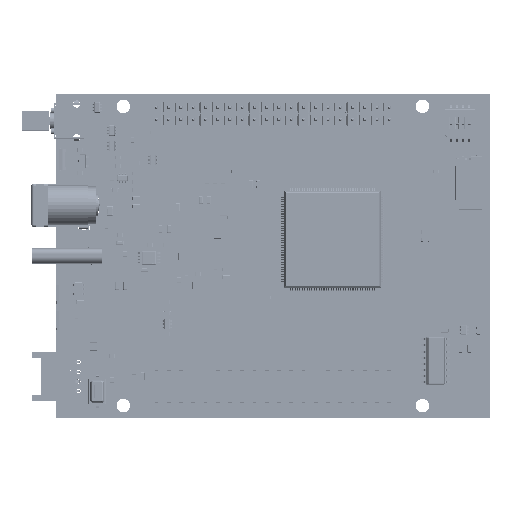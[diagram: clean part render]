
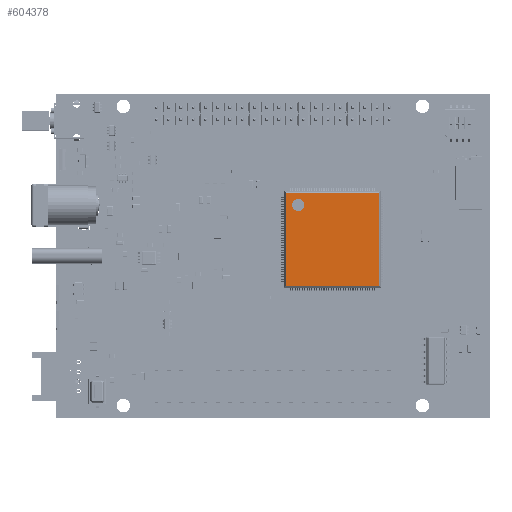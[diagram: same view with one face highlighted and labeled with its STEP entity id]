
A CAD part, top view. The second image highlights one B-rep face of the part: STEP entity #604378.
In plain terms, the highlighted planar face has unit normal (0, 0, 1).
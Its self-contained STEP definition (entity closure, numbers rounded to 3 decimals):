
#604284 = VERTEX_POINT('',#604285);
#604285 = CARTESIAN_POINT('',(47.704,27.304,1.6));
#604292 = EDGE_CURVE('',#604284,#604293,#604295,.T.);
#604293 = VERTEX_POINT('',#604294);
#604294 = CARTESIAN_POINT('',(47.704,46.596,1.6));
#604295 = LINE('',#604296,#604297);
#604296 = CARTESIAN_POINT('',(47.704,27.228,1.6));
#604297 = VECTOR('',#604298,1.);
#604298 = DIRECTION('',(0.,1.,0.));
#604359 = VERTEX_POINT('',#604360);
#604360 = CARTESIAN_POINT('',(66.996,27.304,1.6));
#604367 = EDGE_CURVE('',#604284,#604359,#604368,.T.);
#604368 = LINE('',#604369,#604370);
#604369 = CARTESIAN_POINT('',(47.628,27.304,1.6));
#604370 = VECTOR('',#604371,1.);
#604371 = DIRECTION('',(1.,0.,0.));
#604378 = ADVANCED_FACE('',(#604379,#604397),#604408,.T.);
#604379 = FACE_BOUND('',#604380,.T.);
#604380 = EDGE_LOOP('',(#604381,#604382,#604383,#604391));
#604381 = ORIENTED_EDGE('',*,*,#604292,.F.);
#604382 = ORIENTED_EDGE('',*,*,#604367,.T.);
#604383 = ORIENTED_EDGE('',*,*,#604384,.T.);
#604384 = EDGE_CURVE('',#604359,#604385,#604387,.T.);
#604385 = VERTEX_POINT('',#604386);
#604386 = CARTESIAN_POINT('',(66.996,46.596,1.6));
#604387 = LINE('',#604388,#604389);
#604388 = CARTESIAN_POINT('',(66.996,27.228,1.6));
#604389 = VECTOR('',#604390,1.);
#604390 = DIRECTION('',(0.,1.,0.));
#604391 = ORIENTED_EDGE('',*,*,#604392,.F.);
#604392 = EDGE_CURVE('',#604293,#604385,#604393,.T.);
#604393 = LINE('',#604394,#604395);
#604394 = CARTESIAN_POINT('',(47.628,46.596,1.6));
#604395 = VECTOR('',#604396,1.);
#604396 = DIRECTION('',(1.,0.,0.));
#604397 = FACE_BOUND('',#604398,.T.);
#604398 = EDGE_LOOP('',(#604399));
#604399 = ORIENTED_EDGE('',*,*,#604400,.F.);
#604400 = EDGE_CURVE('',#604401,#604401,#604403,.T.);
#604401 = VERTEX_POINT('',#604402);
#604402 = CARTESIAN_POINT('',(51.488,44.062,1.6));
#604403 = CIRCLE('',#604404,1.25);
#604404 = AXIS2_PLACEMENT_3D('',#604405,#604406,#604407);
#604405 = CARTESIAN_POINT('',(50.238,44.062,1.6));
#604406 = DIRECTION('',(0.,0.,1.));
#604407 = DIRECTION('',(1.,0.,0.));
#604408 = PLANE('',#604409);
#604409 = AXIS2_PLACEMENT_3D('',#604410,#604411,#604412);
#604410 = CARTESIAN_POINT('',(47.35,26.95,1.6));
#604411 = DIRECTION('',(0.,0.,1.));
#604412 = DIRECTION('',(1.,0.,0.));
